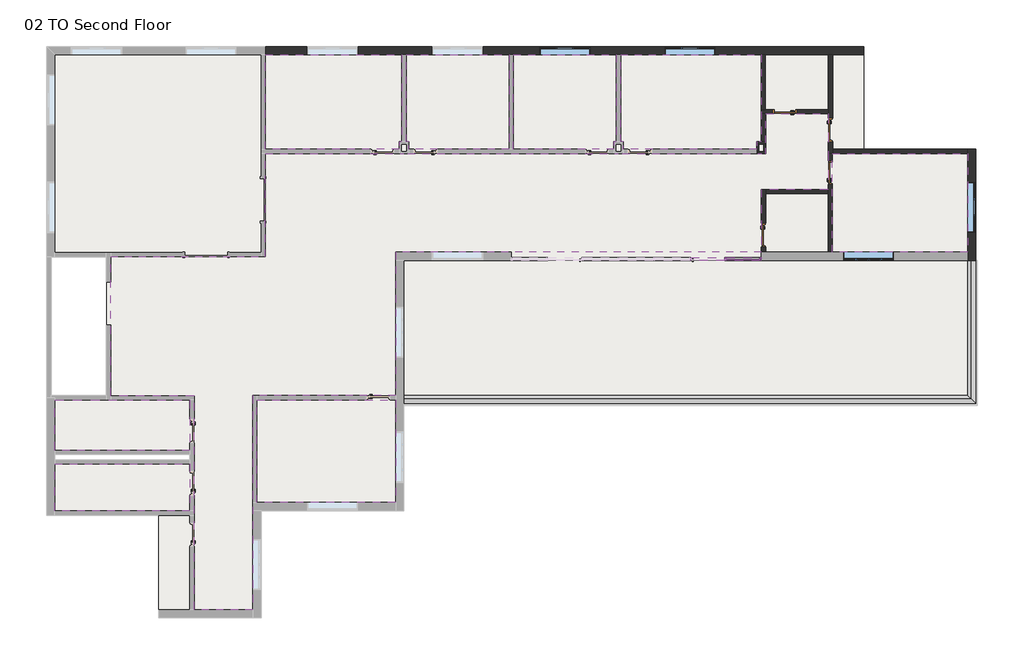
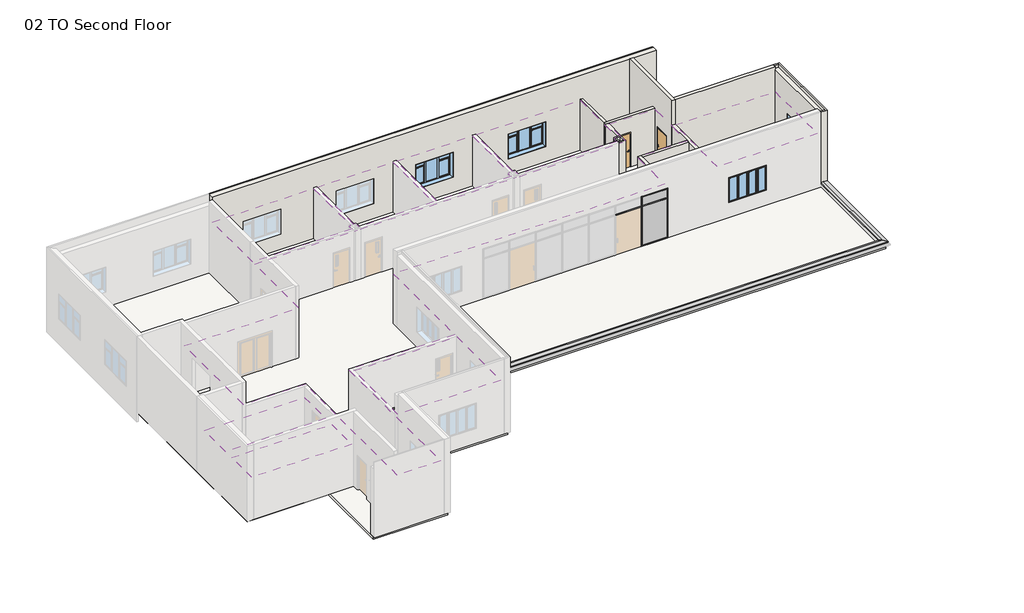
# One storey, part 3 of 3: 14 walls, 9 coverings, 8 members, 4 doors, 4 windows, 2 plates, 2 proxies, 1 slab.
"""IFC4 building model written with IfcOpenShell, lengths in millimetres."""

from ifc_helpers import new_model, si_unit, frame, origin, place, context, project, spatial, polyline, outline, extrude, faceted_brep, transform, mapped, element, save
from components import door_1f8fe3fe, door_c4c6d6d8, door_9c0c0bcf, door_a2a745b5, member_f0fea5a5, member_ee409385, member_5599eeff, member_3e00a44d, member_1f7e5a3f, member_6e77e263, member_47bfaf8a, system_panel_glazed_c45153f5, system_panel_glazed_47a57bc4, window_c7d59df6, window_casement_triple_side_transom_c3c25feb

model = new_model("IFC4")

# Units and contexts
model_context = context("Model", 3, world=origin())
ifc_project = project(units=[si_unit("LENGTHUNIT", "METRE", prefix="MILLI")], contexts=[model_context])

# Site, building, storey
site = spatial("IfcSite", under=ifc_project)
building = spatial("IfcBuilding", under=site)
storey = spatial("IfcBuildingStorey", under=building, Name="02 TO Second Floor", Elevation=4572.0)

# Proxies
placement = place(None, origin())
element("IfcBuildingElementProxy", 1, Name="Wall Sweeps", at=placement, inside=storey, context=model_context, shape_type="Brep", body=[
    faceted_brep([(-4282.7273699, -5989.8253362, 4838.7), (-4282.7273699, -5761.2253362, 4876.8), (-4282.7273699, -5634.2253362, 4838.7), (-4282.7273699, -5634.2253362, 4775.2), (-4282.7273699, -5989.8253362, 4775.2), (20101.2726301, -5989.8253362, 4838.7), (20101.2726301, -5989.8253362, 4775.2), (19745.6726301, -5634.2253362, 4775.2), (19745.6726301, -5634.2253362, 4838.7), (19872.6726301, -5761.2253362, 4876.8)], [[[0, 1, 2, 3, 4]], [[5, 6, 7, 8, 9]], [[0, 4, 6, 5]], [[4, 3, 7, 6]], [[3, 2, 8, 7]], [[2, 1, 9, 8]], [[1, 0, 5, 9]]]),
])
element("IfcBuildingElementProxy", 2, Name="Wall Sweeps", at=placement, inside=storey, context=model_context, shape_type="Brep", body=[
    faceted_brep([(20101.2726301, -5989.8253362, 4838.7), (19872.6726301, -5761.2253362, 4876.8), (19745.6726301, -5634.2253362, 4838.7), (19745.6726301, -5634.2253362, 4775.2), (20101.2726301, -5989.8253362, 4775.2), (20101.2726301, 115.6996638, 4838.7), (20101.2726301, 115.6996638, 4775.2), (19745.6726301, 115.6996638, 4775.2), (19745.6726301, 115.6996638, 4838.7), (19872.6726301, 115.6996638, 4876.8), (20101.2726301, -5634.2253362, 4775.2)], [[[0, 1, 2, 3, 4]], [[5, 6, 7, 8, 9]], [[0, 4, 10, 6, 5]], [[4, 3, 7, 6, 10]], [[3, 2, 8, 7]], [[2, 1, 9, 8]], [[1, 0, 5, 9]]]),
])

# Coverings
element("IfcCovering", 3, ObjectType="Ceiling_2' x 2' ACT System", at=placement, inside=storey, context=model_context, shape_type="SweptSolid", body=[
    extrude(outline(polyline([(-10194.5773699, 4862.3246638), (-10194.5773699, 8894.5746638), (-4374.8023699, 8894.5746638), (-4374.8023699, 5186.1746638), (-4486.4059277, 5186.1746638), (-4486.4059277, 4862.3246638), (-10194.5773699, 4862.3246638)])), frame((0.0, 0.0, 7620.0), z_axis=(0.0, 0.0, 1.0), x_axis=(1.0, 0.0, 0.0)), (0.0, 0.0, 1.0), 57.15),
])
element("IfcCovering", 4, ObjectType="Ceiling_2' x 2' ACT System", at=placement, inside=storey, context=model_context, shape_type="SweptSolid", body=[
    extrude(outline(polyline([(197.1976301, 8894.5746638), (197.1976301, 4862.3246638), (-4079.0488122, 4862.3246638), (-4079.0488122, 5186.1746638), (-4190.6523699, 5186.1746638), (-4190.6523699, 8894.5746638), (197.1976301, 8894.5746638)])), frame((0.0, 0.0, 7620.0), z_axis=(0.0, 0.0, 1.0), x_axis=(1.0, 0.0, 0.0)), (0.0, 0.0, 1.0), 57.15),
])
element("IfcCovering", 5, ObjectType="Ceiling_2' x 2' ACT System", at=placement, inside=storey, context=model_context, shape_type="SweptSolid", body=[
    extrude(outline(polyline([(381.3476301, 4862.3246638), (381.3476301, 8894.5746638), (4769.1976301, 8894.5746638), (4769.1976301, 5186.1746638), (4657.5940723, 5186.1746638), (4657.5940723, 4862.3246638), (381.3476301, 4862.3246638)])), frame((0.0, 0.0, 7620.0), z_axis=(0.0, 0.0, 1.0), x_axis=(1.0, 0.0, 0.0)), (0.0, 0.0, 1.0), 57.15),
])
element("IfcCovering", 6, ObjectType="Ceiling_2' x 2' ACT System", at=placement, inside=storey, context=model_context, shape_type="SweptSolid", body=[
    extrude(outline(polyline([(10754.0726301, 5186.1746638), (10754.0726301, 4862.3246638), (5064.9511878, 4862.3246638), (5064.9511878, 5186.1746638), (4953.3476301, 5186.1746638), (4953.3476301, 8894.5746638), (10957.2726301, 8894.5746638), (10957.2726301, 6464.1121638), (10957.2726301, 5186.1746638), (10754.0726301, 5186.1746638)])), frame((0.0, 0.0, 7620.0), z_axis=(0.0, 0.0, 1.0), x_axis=(1.0, 0.0, 0.0)), (0.0, 0.0, 1.0), 57.15),
])
element("IfcCovering", 7, ObjectType="Ceiling_2' x 2' ACT System", at=placement, inside=storey, context=model_context, shape_type="SweptSolid", body=[
    extrude(outline(polyline([(19745.6726301, 4678.1746638), (19745.6726301, 471.2996638), (13986.2226301, 471.2996638), (13986.2226301, 4678.1746638), (19745.6726301, 4678.1746638)])), frame((0.0, 0.0, 7620.0), z_axis=(0.0, 0.0, 1.0), x_axis=(1.0, 0.0, 0.0)), (0.0, 0.0, 1.0), 57.15),
])
element("IfcCovering", 8, ObjectType="Ceiling_2' x 2' ACT System", at=placement, inside=storey, context=model_context, shape_type="SweptSolid", body=[
    extrude(outline(polyline([(-4638.3273699, -5827.9003362), (-4638.3273699, -10206.2253362), (-10550.1773699, -10206.2253362), (-10550.1773699, -5827.9003362), (-4638.3273699, -5827.9003362)])), frame((0.0, 0.0, 7620.0), z_axis=(0.0, 0.0, 1.0), x_axis=(1.0, 0.0, 0.0)), (0.0, 0.0, 1.0), 57.15),
])
element("IfcCovering", 9, ObjectType="Ceiling_2' x 2' ACT System", at=placement, inside=storey, context=model_context, shape_type="SweptSolid", body=[
    extrude(outline(polyline([(-19167.1273699, -7988.4878362), (-19167.1273699, -5837.4253362), (-16881.1273699, -5837.4253362), (-13407.6773699, -5837.4253362), (-13407.6773699, -7988.4878362), (-19167.1273699, -7988.4878362)])), frame((0.0, 0.0, 7010.4), z_axis=(0.0, 0.0, 1.0), x_axis=(1.0, 0.0, 0.0)), (0.0, 0.0, 1.0), 57.15),
])
element("IfcCovering", 10, ObjectType="Ceiling_2' x 2' ACT System", at=placement, inside=storey, context=model_context, shape_type="SweptSolid", body=[
    extrude(outline(polyline([(-13407.6773699, -10561.8253362), (-19167.1273699, -10561.8253362), (-19167.1273699, -8563.1628362), (-13407.6773699, -8563.1628362), (-13407.6773699, -10561.8253362)])), frame((0.0, 0.0, 7010.4), z_axis=(0.0, 0.0, 1.0), x_axis=(1.0, 0.0, 0.0)), (0.0, 0.0, 1.0), 57.15),
])
element("IfcCovering", 11, ObjectType="Ceiling_GWB on Mtl. Stud", at=placement, inside=storey, context=model_context, shape_type="SweptSolid", body=[
    extrude(outline(polyline([(10957.2726301, 471.2996638), (-4638.3273699, 471.2996638), (-4638.3273699, -5643.7503362), (-10734.3273699, -5643.7503362), (-10734.3273699, -10384.0253362), (-10734.3273699, -14778.2253362), (-13223.5273699, -14778.2253362), (-13223.5273699, -10663.4253362), (-13223.5273699, -5653.2753362), (-16779.5273699, -5653.2753362), (-16779.5273699, 277.6246638), (-10194.5773699, 277.6246638), (-10194.5773699, 4678.1746638), (-4440.3684277, 4678.1746638), (-4125.0863122, 4678.1746638), (4703.6315723, 4678.1746638), (5018.9136878, 4678.1746638), (10800.1101301, 4678.1746638), (11141.4226301, 4678.1746638), (11141.4226301, 5140.1371638), (11141.4226301, 6379.9746638), (13802.0726301, 6379.9746638), (13802.0726301, 4779.7746638), (13802.0726301, 3154.1746638), (10957.2726301, 3154.1746638), (10957.2726301, 471.2996638)])), frame((0.0, 0.0, 7620.0), z_axis=(0.0, 0.0, 1.0), x_axis=(1.0, 0.0, 0.0)), (0.0, 0.0, 1.0), 85.725),
])

# Doors
door_shape = door_1f8fe3fe(model_context)
element("IfcDoor", 12, ObjectType="Door-Passage-Single-Flush : Door Passage Single Flush_36\" x 80\"", at=placement, inside=storey, context=model_context, shape_type="MappedRepresentation", body=[
    mapped(door_shape, transform((11055.6976301, 1198.3746638, 4572.0), x_axis=(0.0, -1.0, 0.0), y_axis=(1.0, 0.0, 0.0), z_axis=(0.0, 0.0, 1.0))),
])
door_2_shape = door_c4c6d6d8(model_context)
element("IfcDoor", 13, ObjectType="Door-Passage-Single-Flush : Door Passage Single Flush_36\" x 80\"", at=placement, inside=storey, context=model_context, shape_type="MappedRepresentation", body=[
    mapped(door_2_shape, transform((13910.0226301, 5694.1746638, 4572.0), x_axis=(0.0, -1.0, 0.0), y_axis=(1.0, 0.0, 0.0), z_axis=(0.0, 0.0, 1.0))),
])
door_3_shape = door_9c0c0bcf(model_context)
element("IfcDoor", 14, ObjectType="Door-Passage-Single-Flush : Door Passage Single Flush_36\" x 80\"", at=placement, inside=storey, context=model_context, shape_type="MappedRepresentation", body=[
    mapped(door_3_shape, transform((11955.8101301, 6470.4621638, 4572.0), x_axis=(-1.0, 0.0, 0.0), y_axis=(0.0, -1.0, 0.0), z_axis=(0.0, 0.0, 1.0))),
])
door_4_shape = door_a2a745b5(model_context)
element("IfcDoor", 15, ObjectType="Door-Passage-Single-Vision_Lite : Door Passage Single Vision Lite_36\" x 80\"", at=placement, inside=storey, context=model_context, shape_type="MappedRepresentation", body=[
    mapped(door_4_shape, transform((13900.4976301, 3865.3746638, 4572.0), x_axis=(0.0, 1.0, 0.0), y_axis=(-1.0, 0.0, 0.0), z_axis=(0.0, 0.0, 1.0))),
])

# Members
member_shape = member_f0fea5a5(model_context)
element("IfcMember", 16, ObjectType="Rectangular Mullion : 2.5\" x 5\" rectangular", at=placement, inside=storey, context=model_context, shape_type="MappedRepresentation", body=[
    mapped(member_shape, transform((9433.2726298, 179.1996638, 4572.0), x_axis=(1.0, 0.0, 0.0), y_axis=(0.0, -1.0, 0.0), z_axis=(0.0, 0.0, -1.0))),
])
member_2_shape = member_ee409385(model_context)
element("IfcMember", 17, ObjectType="Rectangular Mullion : 2.5\" x 5\" rectangular", at=placement, inside=storey, context=model_context, shape_type="MappedRepresentation", body=[
    mapped(member_2_shape, transform((10957.2726301, 179.1996638, 4572.0), x_axis=(1.0, 0.0, 0.0), y_axis=(0.0, -1.0, 0.0), z_axis=(0.0, 0.0, -1.0))),
])
member_3_shape = member_5599eeff(model_context)
element("IfcMember", 18, ObjectType="Rectangular Mullion : 2.5\" x 5\" rectangular", at=placement, inside=storey, context=model_context, shape_type="MappedRepresentation", body=[
    mapped(member_3_shape, transform((10893.7726301, 179.1996638, 7620.0), x_axis=(0.0, 0.0, 1.0), y_axis=(0.0, -1.0, 0.0), z_axis=(1.0, 0.0, 0.0))),
])
element("IfcMember", 19, ObjectType="Rectangular Mullion : 2.5\" x 5\" rectangular", at=placement, inside=storey, context=model_context, shape_type="MappedRepresentation", body=[
    mapped(member_3_shape, transform((9465.0226298, 179.1996638, 4572.0), x_axis=(0.0, 0.0, -1.0), y_axis=(0.0, -1.0, 0.0), z_axis=(-1.0, 0.0, 0.0))),
])
member_4_shape = member_3e00a44d(model_context)
element("IfcMember", 20, ObjectType="Rectangular Mullion : 2.5\" x 5\" rectangular", at=placement, inside=storey, context=model_context, shape_type="MappedRepresentation", body=[
    mapped(member_4_shape, transform((10893.7726301, 179.1996638, 7010.4), x_axis=(0.0, 0.0, 1.0), y_axis=(0.0, -1.0, 0.0), z_axis=(1.0, 0.0, 0.0))),
])
member_5_shape = member_1f7e5a3f(model_context)
element("IfcMember", 21, ObjectType="Rectangular Mullion : 2.5\" x 5\" rectangular", at=placement, inside=storey, context=model_context, shape_type="MappedRepresentation", body=[
    mapped(member_5_shape, transform((9401.5226298, 179.1996638, 7010.4), x_axis=(0.0, 0.0, 1.0), y_axis=(0.0, -1.0, 0.0), z_axis=(1.0, 0.0, 0.0))),
])
member_6_shape = member_6e77e263(model_context)
element("IfcMember", 22, ObjectType="Rectangular Mullion : 2.5\" x 5\" rectangular", at=placement, inside=storey, context=model_context, shape_type="MappedRepresentation", body=[
    mapped(member_6_shape, transform((9433.2726298, 179.1996638, 7010.4), x_axis=(1.0, 0.0, 0.0), y_axis=(0.0, -1.0, 0.0), z_axis=(0.0, 0.0, -1.0))),
])
member_7_shape = member_47bfaf8a(model_context)
element("IfcMember", 23, ObjectType="Rectangular Mullion : 2.5\" x 5\" rectangular", at=placement, inside=storey, context=model_context, shape_type="MappedRepresentation", body=[
    mapped(member_7_shape, transform((10957.2726301, 179.1996638, 7010.4), x_axis=(1.0, 0.0, 0.0), y_axis=(0.0, -1.0, 0.0), z_axis=(0.0, 0.0, -1.0))),
])

# Plates
system_panel_glazed_shape = system_panel_glazed_c45153f5(model_context)
element("IfcPlate", 24, ObjectType="System Panel : Glazed", at=placement, inside=storey, context=model_context, shape_type="MappedRepresentation", body=[
    mapped(system_panel_glazed_shape, transform((10179.3976299, 179.1996638, 4635.5), x_axis=(1.0, 0.0, 0.0), y_axis=(0.0, 1.0, 0.0), z_axis=(0.0, 0.0, 1.0))),
])
system_panel_glazed_2_shape = system_panel_glazed_47a57bc4(model_context)
element("IfcPlate", 25, ObjectType="System Panel : Glazed", at=placement, inside=storey, context=model_context, shape_type="MappedRepresentation", body=[
    mapped(system_panel_glazed_2_shape, transform((10179.3976299, 179.1996638, 7042.15), x_axis=(1.0, 0.0, 0.0), y_axis=(0.0, 1.0, 0.0), z_axis=(0.0, 0.0, 1.0))),
])

# Slab
element("IfcSlab", 26, ObjectType="Floor_CIP on Metal Deck", at=placement, inside=storey, context=model_context, shape_type="Brep", body=[
    faceted_brep([(19999.6726301, 4678.1746638, 4394.2), (19999.6726301, -5888.2253362, 4394.2), (19745.6726301, -5888.2253362, 4394.2), (-4384.3273699, -5888.2253362, 4394.2), (-4384.3273699, -5989.8253362, 4394.2), (-4384.3273699, -10460.2253362, 4394.2), (-10480.3273699, -10460.2253362, 4394.2), (-10480.3273699, -15032.2253362, 4394.2), (-14747.5273699, -15032.2253362, 4394.2), (-14747.5273699, -10561.8253362, 4394.2), (-19421.1273699, -10561.8253362, 4394.2), (-19421.1273699, 9148.5746638, 4394.2), (15326.0726301, 9148.5746638, 4394.2), (15326.0726301, 4678.1746638, 4394.2), (-19179.8273699, -8156.7628362, 4394.2), (-19179.8273699, -8394.8878362, 4394.2), (-13391.8023699, -8394.8878362, 4394.2), (-13391.8023699, -8156.7628362, 4394.2), (-16982.7273699, 258.5746638, 4394.2), (-19319.5273699, 258.5746638, 4394.2), (-19319.5273699, -5634.2253362, 4394.2), (-16982.7273699, -5634.2253362, 4394.2), (19999.6726301, -5888.2253362, 4572.0), (19999.6726301, 4678.1746638, 4572.0), (15326.0726301, 4678.1746638, 4572.0), (15326.0726301, 9148.5746638, 4572.0), (-19421.1273699, 9148.5746638, 4572.0), (-19421.1273699, -10561.8253362, 4572.0), (-14747.5273699, -10561.8253362, 4572.0), (-14747.5273699, -15032.2253362, 4572.0), (-10480.3273699, -15032.2253362, 4572.0), (-10480.3273699, -10460.2253362, 4572.0), (-4384.3273699, -10460.2253362, 4572.0), (-4384.3273699, -5989.8253362, 4572.0), (-4384.3273699, -5913.6253362, 4572.0), (-4384.3273699, -5888.2253362, 4572.0), (19745.6726301, -5888.2253362, 4572.0), (-19179.8273699, -8394.8878362, 4572.0), (-19179.8273699, -8156.7628362, 4572.0), (-13391.8023699, -8156.7628362, 4572.0), (-13391.8023699, -8394.8878362, 4572.0), (-19319.5273699, 258.5746638, 4572.0), (-16982.7273699, 258.5746638, 4572.0), (-16982.7273699, -5634.2253362, 4572.0), (-19319.5273699, -5634.2253362, 4572.0)], [[[0, 1, 2, 3, 4, 5, 6, 7, 8, 9, 10, 11, 12, 13], [14, 15, 16, 17], [18, 19, 20, 21]], [[22, 23, 24, 25, 26, 27, 28, 29, 30, 31, 32, 33, 34, 35, 36], [37, 38, 39, 40], [41, 42, 43, 44]], [[1, 0, 23, 22]], [[5, 4, 3, 35, 34, 33, 32]], [[6, 5, 32, 31]], [[7, 6, 31, 30]], [[8, 7, 30, 29]], [[11, 10, 27, 26]], [[12, 11, 26, 25]], [[3, 2, 1, 22, 36, 35]], [[9, 8, 29, 28]], [[10, 9, 28, 27]], [[13, 12, 25, 24]], [[0, 13, 24, 23]], [[14, 38, 37, 15]], [[15, 37, 40, 16]], [[16, 40, 39, 17]], [[38, 14, 17, 39]], [[18, 42, 41, 19]], [[19, 41, 44, 20]], [[20, 44, 43, 21]], [[42, 18, 21, 43]]]),
])

# Walls
element("IfcWall", 27, ObjectType="Ext Wall_14\"_Brick on CMU_E1", at=placement, inside=storey, context=model_context, shape_type="Brep", body=[
    faceted_brep([(19745.6726301, 4881.3746638, 4572.0), (19745.6726301, 471.2996638, 4572.0), (19745.6726301, 115.6996638, 4572.0), (19745.6726301, 115.6996638, 9144.0), (19745.6726301, 196.6621638, 9144.0), (19745.6726301, 196.6621638, 8966.2), (19745.6726301, 4773.4246638, 8966.2), (19745.6726301, 4773.4246638, 9144.0), (19745.6726301, 4881.3746638, 9144.0), (19745.6726301, 1312.6746638, 7010.4), (19745.6726301, 1312.6746638, 5486.4), (19745.6726301, 3471.6746638, 5486.4), (19745.6726301, 3471.6746638, 7010.4), (20101.2726301, 4881.3746638, 9144.0), (20101.2726301, 115.6996638, 9144.0), (20101.2726301, 115.6996638, 4775.2), (20101.2726301, 115.6996638, 4715.9333333), (20101.2726301, 115.6996638, 4648.2), (20101.2726301, 115.6996638, 4572.0), (20101.2726301, 4881.3746638, 4572.0), (20101.2726301, 1312.6746638, 5486.4), (20101.2726301, 1312.6746638, 7010.4), (20101.2726301, 3471.6746638, 7010.4), (20101.2726301, 3471.6746638, 5486.4), (20025.0726301, 4881.3746638, 9144.0), (20025.0726301, 4881.3746638, 4572.0), (20025.0726301, 115.6996638, 4572.0), (20025.0726301, 115.6996638, 9144.0), (19999.6726301, 196.6621638, 8966.2), (19999.6726301, 4773.4246638, 8966.2), (19999.6726301, 196.6621638, 9144.0), (19999.6726301, 4773.4246638, 9144.0)], [[[0, 1, 2, 3, 4, 5, 6, 7, 8], [9, 10, 11, 12]], [[13, 14, 15, 16, 17, 18, 19], [20, 21, 22, 23]], [[0, 8, 24, 13, 19, 25]], [[10, 9, 21, 20]], [[11, 10, 20, 23]], [[12, 11, 23, 22]], [[9, 12, 22, 21]], [[3, 2, 26, 18, 17, 16, 15, 14, 27]], [[28, 29, 6, 5]], [[29, 28, 30, 31]], [[30, 28, 5, 4]], [[29, 31, 7, 6]], [[2, 1, 0, 25, 26]], [[25, 19, 18, 26]], [[14, 13, 24, 27]], [[3, 27, 24, 8, 7, 31, 30, 4]]]),
])
element("IfcWall", 28, ObjectType="Ext Wall_14\"_Brick on CMU_E1", at=placement, inside=storey, context=model_context, shape_type="Brep", body=[
    faceted_brep([(-10200.9273699, 8894.5746638, 9144.0), (-10200.9273699, 8894.5746638, 8686.8), (-10200.9273699, 8894.5746638, 4572.0), (-10194.5773699, 8894.5746638, 4572.0), (-10023.1273699, 8894.5746638, 4572.0), (-4374.8023699, 8894.5746638, 4572.0), (-4190.6523699, 8894.5746638, 4572.0), (197.1976301, 8894.5746638, 4572.0), (381.3476301, 8894.5746638, 4572.0), (4769.1976301, 8894.5746638, 4572.0), (4953.3476301, 8894.5746638, 4572.0), (10957.2726301, 8894.5746638, 4572.0), (11125.5476301, 8894.5746638, 4572.0), (15326.0726301, 8894.5746638, 4572.0), (15326.0726301, 8894.5746638, 9144.0), (-6251.2273699, 8894.5746638, 7010.4), (-6251.2273699, 8894.5746638, 5486.4), (-8410.2273699, 8894.5746638, 5486.4), (-8410.2273699, 8894.5746638, 7010.4), (-917.2273699, 8894.5746638, 7010.4), (-917.2273699, 8894.5746638, 5486.4), (-3076.2273699, 8894.5746638, 5486.4), (-3076.2273699, 8894.5746638, 7010.4), (3654.7726301, 8894.5746638, 7010.4), (3654.7726301, 8894.5746638, 5486.4), (1495.7726301, 8894.5746638, 5486.4), (1495.7726301, 8894.5746638, 7010.4), (8988.7726301, 8894.5746638, 7010.4), (8988.7726301, 8894.5746638, 5486.4), (6829.7726301, 8894.5746638, 5486.4), (6829.7726301, 8894.5746638, 7010.4), (-10200.9273699, 9250.1746638, 4572.0), (-10200.9273699, 9250.1746638, 9144.0), (15326.0726301, 9250.1746638, 9144.0), (15326.0726301, 9250.1746638, 4572.0), (-10023.1273699, 9250.1746638, 4572.0), (-6251.2273699, 9250.1746638, 7010.4), (-8410.2273699, 9250.1746638, 7010.4), (-8410.2273699, 9250.1746638, 5486.4), (-6251.2273699, 9250.1746638, 5486.4), (-917.2273699, 9250.1746638, 7010.4), (-3076.2273699, 9250.1746638, 7010.4), (-3076.2273699, 9250.1746638, 5486.4), (-917.2273699, 9250.1746638, 5486.4), (3654.7726301, 9250.1746638, 7010.4), (1495.7726301, 9250.1746638, 7010.4), (1495.7726301, 9250.1746638, 5486.4), (3654.7726301, 9250.1746638, 5486.4), (8988.7726301, 9250.1746638, 7010.4), (6829.7726301, 9250.1746638, 7010.4), (6829.7726301, 9250.1746638, 5486.4), (8988.7726301, 9250.1746638, 5486.4), (15326.0726301, 9173.9746638, 4572.0), (15326.0726301, 9173.9746638, 9144.0), (-10200.9273699, 9173.9746638, 4572.0), (-10200.9273699, 9173.9746638, 9144.0)], [[[0, 1, 2, 3, 4, 5, 6, 7, 8, 9, 10, 11, 12, 13, 14], [15, 16, 17, 18], [19, 20, 21, 22], [23, 24, 25, 26], [27, 28, 29, 30]], [[31, 32, 33, 34, 35], [36, 37, 38, 39], [40, 41, 42, 43], [44, 45, 46, 47], [48, 49, 50, 51]], [[14, 13, 52, 34, 33, 53]], [[13, 12, 11, 10, 9, 8, 7, 6, 5, 4, 3, 2, 54, 52]], [[15, 18, 37, 36]], [[18, 17, 38, 37]], [[17, 16, 39, 38]], [[16, 15, 36, 39]], [[19, 22, 41, 40]], [[22, 21, 42, 41]], [[21, 20, 43, 42]], [[20, 19, 40, 43]], [[23, 26, 45, 44]], [[26, 25, 46, 45]], [[25, 24, 47, 46]], [[24, 23, 44, 47]], [[27, 30, 49, 48]], [[30, 29, 50, 49]], [[29, 28, 51, 50]], [[28, 27, 48, 51]], [[54, 31, 35, 34, 52]], [[0, 55, 32, 31, 54, 2, 1]], [[53, 33, 32, 55]], [[0, 14, 53, 55]]]),
])
element("IfcWall", 29, ObjectType="IntWall_P1_7 1/4\"", at=placement, inside=storey, context=model_context, shape_type="SweptSolid", body=[
    extrude(outline(polyline([(10957.2726301, 5186.1746638), (10957.2726301, 6379.9746638), (11141.4226301, 6379.9746638), (11141.4226301, 5186.1746638), (10957.2726301, 5186.1746638)])), frame((0.0, 0.0, 4572.0), z_axis=(0.0, 0.0, 1.0), x_axis=(1.0, 0.0, 0.0)), (0.0, 0.0, 1.0), 3098.8),
])
element("IfcWall", 30, ObjectType="IntWall_P1_7 1/4\"", at=placement, inside=storey, context=model_context, shape_type="Brep", body=[
    faceted_brep([(10957.2726301, 471.2996638, 7670.8), (10957.2726301, 3154.1746638, 7670.8), (10957.2726301, 3154.1746638, 4572.0), (10957.2726301, 1706.3746638, 4572.0), (10957.2726301, 1706.3746638, 6705.6), (10957.2726301, 690.3746638, 6705.6), (10957.2726301, 690.3746638, 4572.0), (10957.2726301, 471.2996638, 4572.0), (10957.2726301, 471.2996638, 7620.0), (11141.4226301, 3154.1746638, 7670.8), (11141.4226301, 2970.0246638, 7670.8), (11141.4226301, 471.2996638, 7670.8), (11141.4226301, 471.2996638, 4572.0), (11141.4226301, 690.3746638, 4572.0), (11141.4226301, 690.3746638, 6705.6), (11141.4226301, 1706.3746638, 6705.6), (11141.4226301, 1706.3746638, 4572.0), (11141.4226301, 2970.0246638, 4572.0), (11141.4226301, 3154.1746638, 4572.0)], [[[0, 1, 2, 3, 4, 5, 6, 7, 8]], [[9, 10, 11, 12, 13, 14, 15, 16, 17, 18]], [[12, 7, 6, 13]], [[2, 18, 17, 16, 3]], [[1, 0, 11, 10, 9]], [[0, 8, 7, 12, 11]], [[2, 1, 9, 18]], [[5, 14, 13, 6]], [[14, 5, 4, 15]], [[15, 4, 3, 16]]]),
])
element("IfcWall", 31, ObjectType="IntWall_P1_7 1/4\"", at=placement, inside=storey, context=model_context, shape_type="Brep", body=[
    faceted_brep([(13802.0726301, 471.2996638, 7670.8), (13802.0726301, 2970.0246638, 7670.8), (13802.0726301, 3154.1746638, 7670.8), (13802.0726301, 4678.1746638, 7670.8), (13802.0726301, 4678.1746638, 4572.0), (13802.0726301, 4373.3746638, 4572.0), (13802.0726301, 4373.3746638, 6705.6), (13802.0726301, 3357.3746638, 6705.6), (13802.0726301, 3357.3746638, 4572.0), (13802.0726301, 3154.1746638, 4572.0), (13802.0726301, 2970.0246638, 4572.0), (13802.0726301, 471.2996638, 4572.0), (13986.2226301, 4678.1746638, 7670.8), (13986.2226301, 471.2996638, 7670.8), (13986.2226301, 471.2996638, 4572.0), (13986.2226301, 3357.3746638, 4572.0), (13986.2226301, 3357.3746638, 6705.6), (13986.2226301, 4373.3746638, 6705.6), (13986.2226301, 4373.3746638, 4572.0), (13986.2226301, 4678.1746638, 4572.0)], [[[0, 1, 2, 3, 4, 5, 6, 7, 8, 9, 10, 11]], [[12, 13, 14, 15, 16, 17, 18, 19]], [[4, 19, 18, 5]], [[14, 11, 10, 9, 8, 15]], [[3, 2, 1, 0, 13, 12]], [[4, 3, 12, 19]], [[0, 11, 14, 13]], [[17, 6, 5, 18]], [[6, 17, 16, 7]], [[7, 16, 15, 8]]]),
])
element("IfcWall", 32, ObjectType="IntWall_P1_7 1/4\"", at=placement, inside=storey, context=model_context, shape_type="SweptSolid", body=[
    extrude(outline(polyline([(13802.0726301, 2970.0246638), (11141.4226301, 2970.0246638), (11141.4226301, 3154.1746638), (13802.0726301, 3154.1746638), (13802.0726301, 2970.0246638)])), frame((0.0, 0.0, 4572.0), z_axis=(0.0, 0.0, 1.0), x_axis=(1.0, 0.0, 0.0)), (0.0, 0.0, 1.0), 3098.8),
])
element("IfcWall", 33, ObjectType="IntWall_P2_6 5/8\"", at=placement, inside=storey, context=model_context, shape_type="Brep", body=[
    faceted_brep([(13802.0726301, 6379.9746638, 4572.0), (13802.0726301, 6379.9746638, 7670.8), (11141.4226301, 6379.9746638, 7670.8), (10957.2726301, 6379.9746638, 7670.8), (10957.2726301, 6379.9746638, 4572.0), (11141.4226301, 6379.9746638, 4572.0), (11447.8101301, 6379.9746638, 4572.0), (11447.8101301, 6379.9746638, 6705.6), (12463.8101301, 6379.9746638, 6705.6), (12463.8101301, 6379.9746638, 4572.0), (10957.2726301, 6548.2496638, 7670.8), (11125.5476301, 6548.2496638, 7670.8), (13802.0726301, 6548.2496638, 7670.8), (13802.0726301, 6548.2496638, 4572.0), (12463.8101301, 6548.2496638, 4572.0), (12463.8101301, 6548.2496638, 6705.6), (11447.8101301, 6548.2496638, 6705.6), (11447.8101301, 6548.2496638, 4572.0), (11125.5476301, 6548.2496638, 4572.0), (10957.2726301, 6548.2496638, 4572.0), (13802.0726301, 6395.8496638, 7670.8), (10957.2726301, 6395.8496638, 7670.8)], [[[0, 1, 2, 3, 4, 5, 6, 7, 8, 9]], [[10, 11, 12, 13, 14, 15, 16, 17, 18, 19]], [[13, 0, 9, 14]], [[4, 19, 18, 17, 6, 5]], [[1, 0, 13, 12, 20]], [[4, 3, 21, 10, 19]], [[12, 11, 10, 21, 20]], [[3, 2, 1, 20, 21]], [[16, 7, 6, 17]], [[7, 16, 15, 8]], [[8, 15, 14, 9]]]),
])
element("IfcWall", 34, ObjectType="IntWall_P2_6 5/8\"", at=placement, inside=storey, context=model_context, shape_type="SweptSolid", body=[
    extrude(outline(polyline([(4572.0, 11125.5476301), (7670.8, 11125.5476301), (7670.8, 10973.1476301), (7670.8, 10957.2726301), (4572.0, 10957.2726301), (4572.0, 11125.5476301)])), frame((0.0, 6548.2496638, 0.0), z_axis=(0.0, 1.0, 0.0), x_axis=(0.0, 0.0, 1.0)), (0.0, 0.0, 1.0), 2346.325),
])
element("IfcWall", 35, ObjectType="IntWall_P3_3 5/8\"", at=placement, inside=storey, context=model_context, shape_type="Brep", body=[
    faceted_brep([(10754.0726301, 5094.0996638, 4572.0), (10846.1476301, 5094.0996638, 4572.0), (11049.3476301, 5094.0996638, 4572.0), (11141.4226301, 5094.0996638, 4572.0), (11141.4226301, 5094.0996638, 7670.8), (11049.3476301, 5094.0996638, 7670.8), (10846.1476301, 5094.0996638, 7670.8), (10754.0726301, 5094.0996638, 7670.8), (10754.0726301, 5186.1746638, 4572.0), (10754.0726301, 5186.1746638, 7670.8), (10957.2726301, 5186.1746638, 7670.8), (11141.4226301, 5186.1746638, 7670.8), (11141.4226301, 5186.1746638, 4572.0), (10957.2726301, 5186.1746638, 4572.0)], [[[0, 1, 2, 3, 4, 5, 6, 7]], [[8, 9, 10, 11, 12, 13]], [[3, 2, 1, 0, 8, 13, 12]], [[7, 6, 5, 4, 11, 10, 9]], [[0, 7, 9, 8]], [[4, 3, 12, 11]]]),
])
element("IfcWall", 36, ObjectType="IntWall_P3_3 5/8\"", at=placement, inside=storey, context=model_context, shape_type="Brep", body=[
    faceted_brep([(10846.1476301, 4770.2496638, 4572.0), (10846.1476301, 5094.0996638, 4572.0), (10846.1476301, 5094.0996638, 7670.8), (10846.1476301, 4770.2496638, 7670.8), (10754.0726301, 4770.2496638, 4572.0), (10754.0726301, 4770.2496638, 7670.8), (10754.0726301, 4862.3246638, 7670.8), (10754.0726301, 5094.0996638, 7670.8), (10754.0726301, 5094.0996638, 4572.0), (10754.0726301, 4862.3246638, 4572.0)], [[[0, 1, 2, 3]], [[4, 5, 6, 7, 8, 9]], [[1, 0, 4, 9, 8]], [[3, 2, 7, 6, 5]], [[2, 1, 8, 7]], [[0, 3, 5, 4]]]),
])
element("IfcWall", 37, ObjectType="IntWall_P3_3 5/8\"", at=placement, inside=storey, context=model_context, shape_type="Brep", body=[
    faceted_brep([(11141.4226301, 4770.2496638, 4572.0), (11049.3476301, 4770.2496638, 4572.0), (10846.1476301, 4770.2496638, 4572.0), (10754.0726301, 4770.2496638, 4572.0), (10754.0726301, 4770.2496638, 7670.8), (10846.1476301, 4770.2496638, 7670.8), (11049.3476301, 4770.2496638, 7670.8), (11141.4226301, 4770.2496638, 7670.8), (11141.4226301, 4678.1746638, 4572.0), (11141.4226301, 4678.1746638, 7670.8), (10754.0726301, 4678.1746638, 7670.8), (10754.0726301, 4678.1746638, 4572.0)], [[[0, 1, 2, 3, 4, 5, 6, 7]], [[8, 9, 10, 11]], [[3, 2, 1, 0, 8, 11]], [[7, 6, 5, 4, 10, 9]], [[0, 7, 9, 8]], [[4, 3, 11, 10]]]),
])
element("IfcWall", 38, ObjectType="IntWall_P3_3 5/8\"", at=placement, inside=storey, context=model_context, shape_type="SweptSolid", body=[
    extrude(outline(polyline([(11049.3476301, 4770.2496638), (11049.3476301, 5094.0996638), (11141.4226301, 5094.0996638), (11141.4226301, 4770.2496638), (11049.3476301, 4770.2496638)])), frame((0.0, 0.0, 4572.0), z_axis=(0.0, 0.0, 1.0), x_axis=(1.0, 0.0, 0.0)), (0.0, 0.0, 1.0), 3098.8),
])
element("IfcWall", 39, ObjectType="Shear Wall_S1_8\" CIP", at=placement, inside=storey, context=model_context, shape_type="Brep", body=[
    faceted_brep([(13802.0726301, 4678.1746638, 9144.0), (13802.0726301, 8894.5746638, 9144.0), (13802.0726301, 8894.5746638, 4572.0), (13802.0726301, 6202.1746638, 4572.0), (13802.0726301, 6202.1746638, 6705.6), (13802.0726301, 5186.1746638, 6705.6), (13802.0726301, 5186.1746638, 4572.0), (13802.0726301, 4678.1746638, 4572.0), (14005.2726301, 8894.5746638, 9144.0), (14005.2726301, 4881.3746638, 9144.0), (14005.2726301, 4678.1746638, 9144.0), (14005.2726301, 4678.1746638, 4572.0), (14005.2726301, 4881.3746638, 4572.0), (14005.2726301, 5186.1746638, 4572.0), (14005.2726301, 5186.1746638, 6705.6), (14005.2726301, 6202.1746638, 6705.6), (14005.2726301, 6202.1746638, 4572.0), (14005.2726301, 8894.5746638, 4572.0)], [[[0, 1, 2, 3, 4, 5, 6, 7]], [[8, 9, 10, 11, 12, 13, 14, 15, 16, 17]], [[11, 7, 6, 13, 12]], [[2, 17, 16, 3]], [[1, 0, 10, 9, 8]], [[7, 11, 10, 0]], [[2, 1, 8, 17]], [[5, 14, 13, 6]], [[14, 5, 4, 15]], [[15, 4, 3, 16]]]),
])
element("IfcWall", 40, ObjectType="Shear Wall_S1_8\" CIP", at=placement, inside=storey, context=model_context, shape_type="SweptSolid", body=[
    extrude(outline(polyline([(19745.6726301, 4678.1746638), (14005.2726301, 4678.1746638), (14005.2726301, 4881.3746638), (19745.6726301, 4881.3746638), (19745.6726301, 4678.1746638)])), frame((0.0, 0.0, 4572.0), z_axis=(0.0, 0.0, 1.0), x_axis=(1.0, 0.0, 0.0)), (0.0, 0.0, 1.0), 4572.0),
])

# Windows
window_shape = window_c7d59df6(model_context)
element("IfcWindow", 41, ObjectType="Window-Casement-Multi-Sash-Horizontal : Multi Sash Window_A_85\" x 60\"", at=placement, inside=storey, context=model_context, shape_type="MappedRepresentation", body=[
    mapped(window_shape, transform((15529.2726301, 293.4996638, 4572.0), x_axis=(-1.0, 0.0, 0.0), y_axis=(0.0, -1.0, 0.0), z_axis=(0.0, 0.0, 1.0))),
])
window_casement_triple_side_transom_shape = window_casement_triple_side_transom_c3c25feb(model_context)
element("IfcWindow", 42, ObjectType="Window-Casement-Triple-Side-Transom : Triple Side WIndow_B_85\" x 60\"", at=placement, inside=storey, context=model_context, shape_type="MappedRepresentation", body=[
    mapped(window_casement_triple_side_transom_shape, transform((2575.2726301, 9072.3746638, 4572.0), x_axis=(1.0, 0.0, 0.0), y_axis=(0.0, 1.0, 0.0), z_axis=(0.0, 0.0, 1.0))),
])
element("IfcWindow", 43, ObjectType="Window-Casement-Triple-Side-Transom : Triple Side WIndow_B_85\" x 60\"", at=placement, inside=storey, context=model_context, shape_type="MappedRepresentation", body=[
    mapped(window_casement_triple_side_transom_shape, transform((7909.2726301, 9072.3746638, 4572.0), x_axis=(1.0, 0.0, 0.0), y_axis=(0.0, 1.0, 0.0), z_axis=(0.0, 0.0, 1.0))),
])
element("IfcWindow", 44, ObjectType="Window-Casement-Triple-Side-Transom : Triple Side WIndow_B_85\" x 60\"", at=placement, inside=storey, context=model_context, shape_type="MappedRepresentation", body=[
    mapped(window_casement_triple_side_transom_shape, transform((19923.4726301, 2392.1746638, 4572.0), x_axis=(0.0, -1.0, 0.0), y_axis=(1.0, 0.0, 0.0), z_axis=(0.0, 0.0, 1.0))),
])

save(model, "model.ifc")
